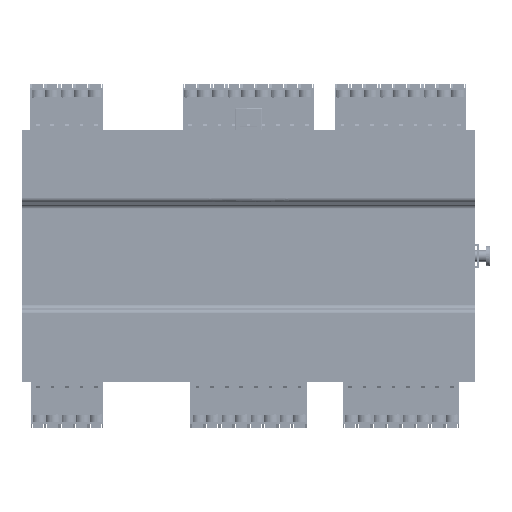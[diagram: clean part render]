
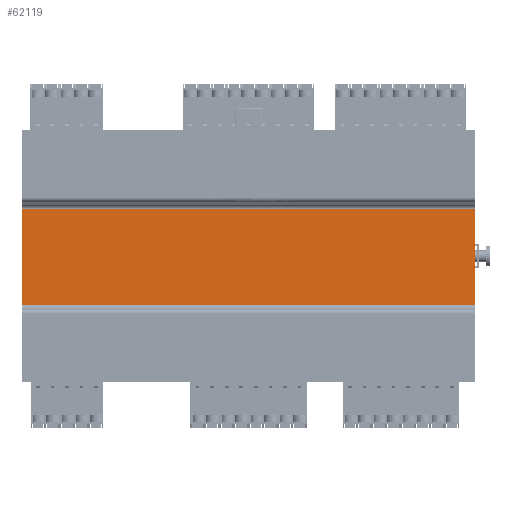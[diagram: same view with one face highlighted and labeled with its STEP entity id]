
A CAD part, front view. The second image highlights one B-rep face of the part: STEP entity #62119.
In plain terms, the highlighted planar face has unit normal (0, -1, 0).
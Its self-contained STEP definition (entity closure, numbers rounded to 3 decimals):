
#4560=PLANE('',#67526);
#7757=FACE_OUTER_BOUND('',#11179,.T.);
#11179=EDGE_LOOP('',(#58050,#58051,#58052,#58053));
#19538=LINE('',#104654,#26069);
#19555=LINE('',#104702,#26086);
#19556=LINE('',#104704,#26087);
#19557=LINE('',#104705,#26088);
#26069=VECTOR('',#84513,10.);
#26086=VECTOR('',#84558,10.);
#26087=VECTOR('',#84561,10.);
#26088=VECTOR('',#84562,10.);
#31754=VERTEX_POINT('',#104650);
#31756=VERTEX_POINT('',#104653);
#31772=VERTEX_POINT('',#104698);
#31773=VERTEX_POINT('',#104700);
#40517=EDGE_CURVE('',#31756,#31754,#19538,.T.);
#40541=EDGE_CURVE('',#31773,#31772,#19555,.T.);
#40542=EDGE_CURVE('',#31772,#31754,#19556,.T.);
#40543=EDGE_CURVE('',#31756,#31773,#19557,.T.);
#58050=ORIENTED_EDGE('',*,*,#40542,.F.);
#58051=ORIENTED_EDGE('',*,*,#40541,.F.);
#58052=ORIENTED_EDGE('',*,*,#40543,.F.);
#58053=ORIENTED_EDGE('',*,*,#40517,.T.);
#62119=ADVANCED_FACE('',(#7757),#4560,.F.);
#67526=AXIS2_PLACEMENT_3D('',#104703,#84559,#84560);
#84513=DIRECTION('',(1.,0.,0.));
#84558=DIRECTION('',(1.,0.,0.));
#84559=DIRECTION('center_axis',(0.,1.,0.));
#84560=DIRECTION('ref_axis',(0.,0.,1.));
#84561=DIRECTION('',(0.,0.,-1.));
#84562=DIRECTION('',(0.,0.,1.));
#104650=CARTESIAN_POINT('',(78.935,6.369,-16.952));
#104653=CARTESIAN_POINT('',(-78.935,6.369,-16.952));
#104654=CARTESIAN_POINT('',(-78.935,6.369,-16.952));
#104698=CARTESIAN_POINT('',(78.935,6.369,16.457));
#104700=CARTESIAN_POINT('',(-78.935,6.369,16.457));
#104702=CARTESIAN_POINT('',(-78.935,6.369,16.457));
#104703=CARTESIAN_POINT('Origin',(-78.935,6.369,-16.952));
#104704=CARTESIAN_POINT('',(78.935,6.369,-30.476));
#104705=CARTESIAN_POINT('',(-78.935,6.369,13.524));
